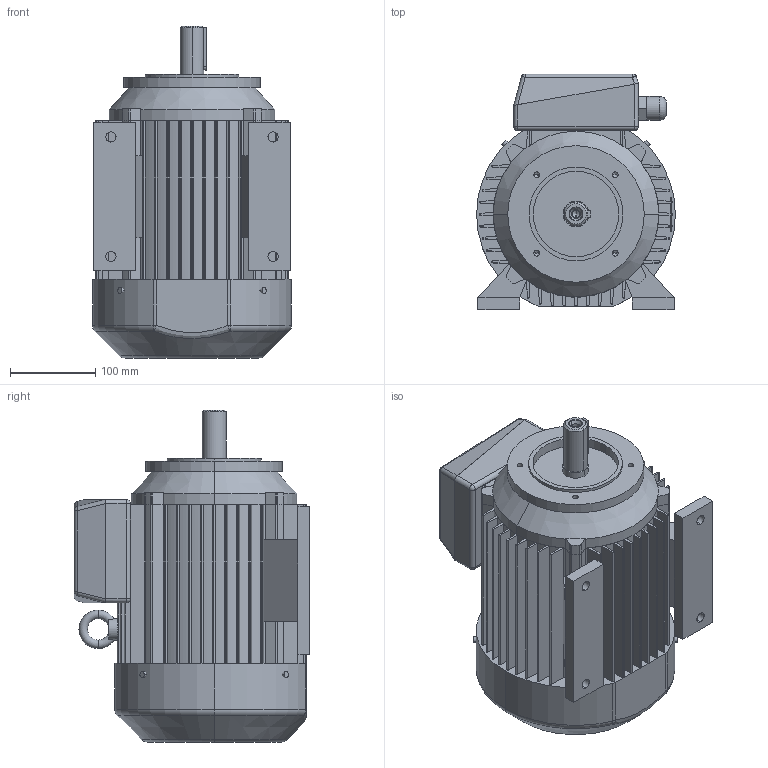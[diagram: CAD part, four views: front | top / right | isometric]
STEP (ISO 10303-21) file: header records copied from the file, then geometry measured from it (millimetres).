
FILE_DESCRIPTION (( 'STEP AP203' ), '1' );
FILE_NAME ('2SIEL112M4-B34-C2.STEP', '2013-01-07T13:15:28', ( 'INDUKTA' ), ( 'CANTONI MOTOR' ), 'SwSTEP 2.0', 'SolidWorks 2003064', '' );
FILE_SCHEMA (( 'CONFIG_CONTROL_DESIGN' ));
Length unit declared in the file: millimetre
Products named in the file (1): 2SIEL112M4-B34-C2
Bounding box: 233 x 276 x 389 mm (x, y, z)
Volume: 12360618.6 mm3; surface area: 774007.5 mm2
Topology: 14 solids, 14 shells, 466 faces, 1234 edges, 779 vertices
Faces by surface type: cylinder 213, plane 207, cone 22, torus 13, sphere 10, bspline 1
Entity records: 15271 total; most frequent: CARTESIAN_POINT 3495, DIRECTION 2536, ORIENTED_EDGE 2428, EDGE_CURVE 1214, AXIS2_PLACEMENT_3D 907, VERTEX_POINT 779, LINE 722, VECTOR 722
